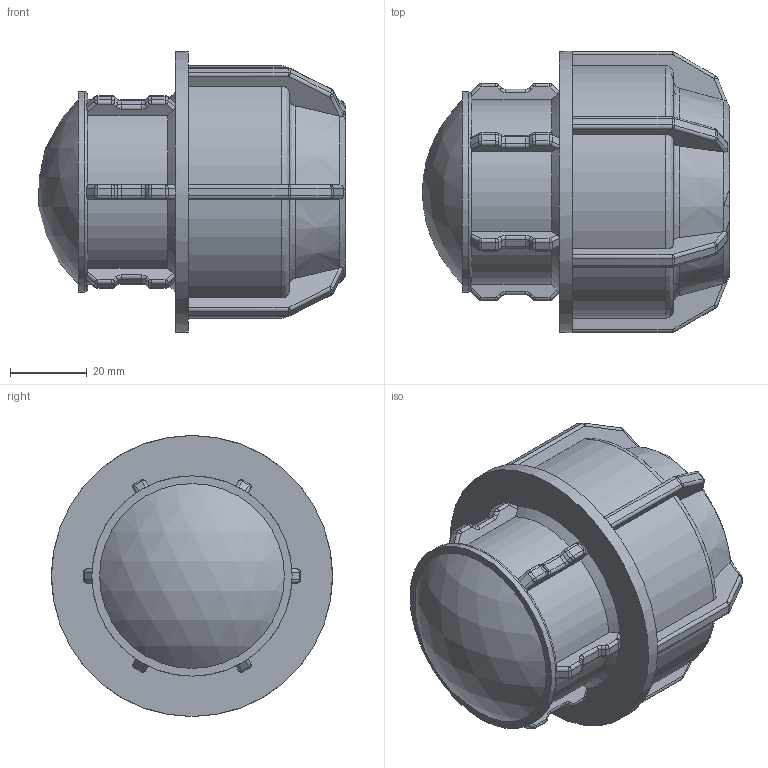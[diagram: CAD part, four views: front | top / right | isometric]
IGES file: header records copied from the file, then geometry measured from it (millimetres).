
Global section: file name: 141200040.ipt; native system: Autodesk Inventor 2015; preprocessor: unknown; author: KIM; date: 20180409.131139; units: millimetre
Bounding box: 79.77 x 73 x 73 mm (x, y, z)
Volume: 104960.3 mm3; surface area: 32382.5 mm2
Topology: 1 solids, 1 shells, 466 faces, 1155 edges, 689 vertices
Faces by surface type: cylinder 170, plane 157, revolution 126, cone 12, sphere 1
Full cylindrical faces by diameter (mm): 52 x1, 73 x1
